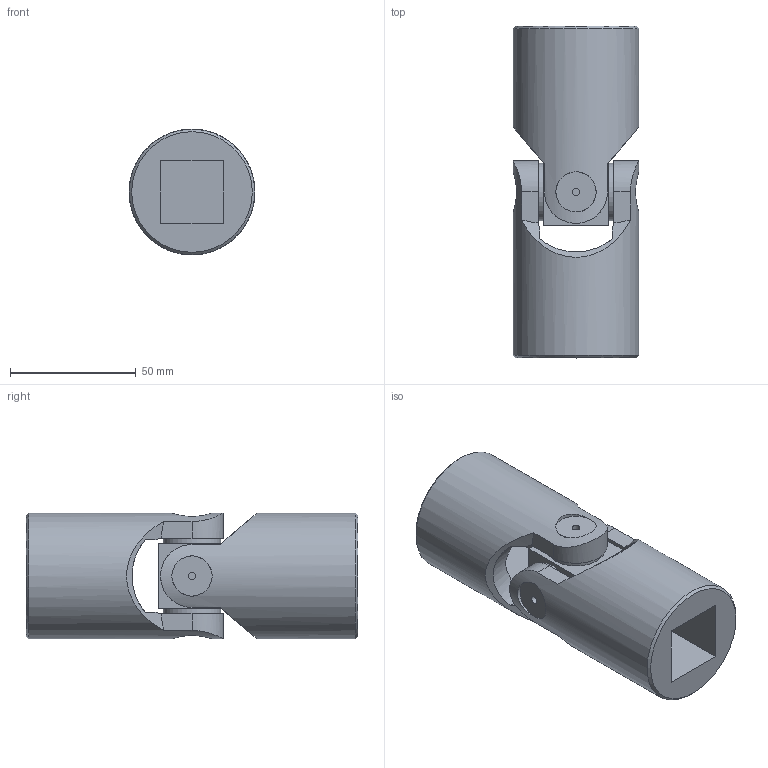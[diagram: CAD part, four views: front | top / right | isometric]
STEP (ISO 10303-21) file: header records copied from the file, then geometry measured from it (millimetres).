
FILE_DESCRIPTION(/* description */ (''),/* implementation_level */ '2;1');
FILE_NAME(/* name */ '\\SRV2016\Societa\Stefano\Disegni 3D\Dis. Clienti\0000Catalogo 3D\01Singoli G-GB\Ø50_6GB-2Q_SGBS302Q.stp',/* time_stamp */ '2021-11-10T15:25:39+01:00',/* author */ ('acquisti'),/* organization */ (''),/* preprocessor_version */ 'ST-DEVELOPER v15.6',/* originating_system */ 'Autodesk Inventor 2015',/* authorisation */ '');
FILE_SCHEMA (('AUTOMOTIVE_DESIGN { 1 0 10303 214 3 1 1 }'));
Length unit declared in the file: millimetre
Products named in the file (3): 5G SFE; 6GB MOQ; Assieme9
Assembly tree (3 placements, depth 2):
  Assieme9
    5G SFE
    6GB MOQ  x2
Bounding box: 50 x 132 x 50 mm (x, y, z)
Volume: 167214.4 mm3; surface area: 40696.1 mm2
Topology: 3 solids, 3 shells, 90 faces, 228 edges, 154 vertices
Faces by surface type: plane 44, cylinder 26, cone 18, torus 2
Full cylindrical faces by diameter (mm): 3 x4, 16 x4, 23 x4, 50 x2
Entity records: 1757 total; most frequent: CARTESIAN_POINT 553, ORIENTED_EDGE 230, DIRECTION 228, EDGE_CURVE 115, AXIS2_PLACEMENT_3D 94, VERTEX_POINT 85, EDGE_LOOP 72, FACE_OUTER_BOUND 52
